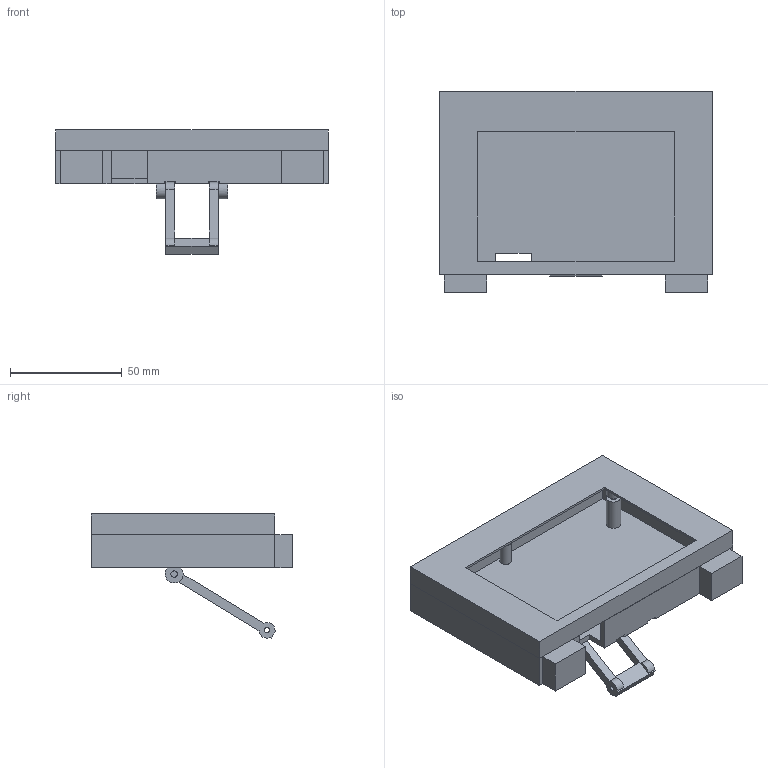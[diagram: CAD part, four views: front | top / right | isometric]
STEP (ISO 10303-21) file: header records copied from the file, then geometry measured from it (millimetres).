
FILE_DESCRIPTION(('Open CASCADE Model'),'2;1');
FILE_NAME('Open CASCADE Shape Model','2026-09-24T16:47:20',('Author'),( 'Open CASCADE'),'Open CASCADE STEP processor 8.0','Open CASCADE 8.0' ,'Unknown');
FILE_SCHEMA(('AP242_MANAGED_MODEL_BASED_3D_ENGINEERING_MIM_LF {1 0 10303 442 1 1 4 }' ));
Length unit declared in the file: millimetre
Products named in the file (3): Extended Front Cover with M2 Inserts; Single Rectangle Rear Shell; Kickstand at 30 Degrees
Bounding box: 122 x 90 x 55.51 mm (x, y, z)
Volume: 57002.8 mm3; surface area: 53765.1 mm2
Topology: 3 solids, 3 shells, 125 faces, 303 edges, 202 vertices
Faces by surface type: plane 91, cylinder 34
Full cylindrical faces by diameter (mm): 2.4 x7, 2.9 x6, 4.6 x4, 5.2 x1, 6.4 x7
Entity records: 7694 total; most frequent: CARTESIAN_POINT 1267, DIRECTION 1230, LINE 761, VECTOR 761, ORIENTED_EDGE 606, PCURVE 606, DEFINITIONAL_REPRESENTATION 606, EDGE_CURVE 303
